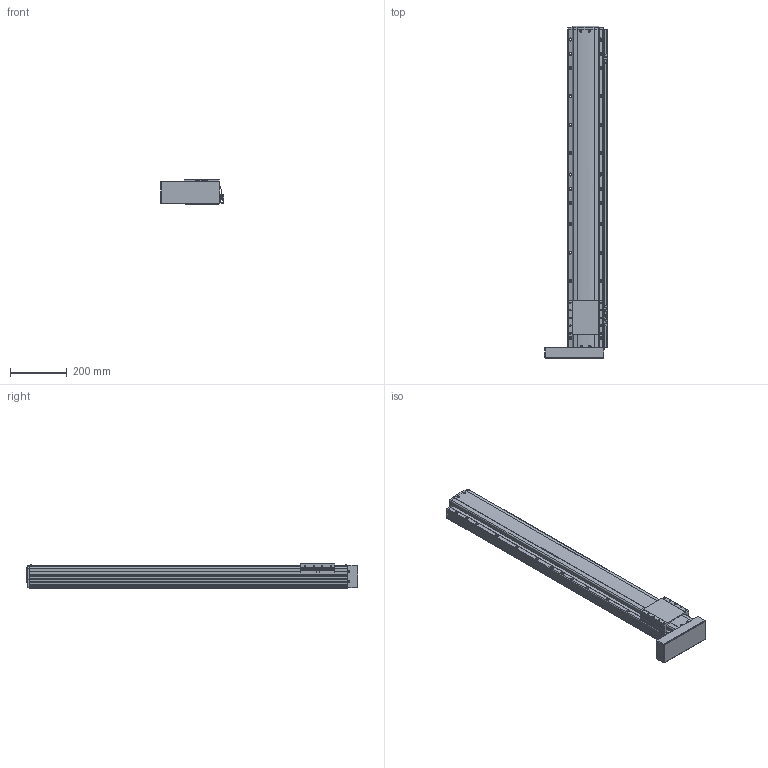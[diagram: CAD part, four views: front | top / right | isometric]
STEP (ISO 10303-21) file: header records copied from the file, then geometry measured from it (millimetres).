
FILE_DESCRIPTION(('STEP AP214'),'1');
FILE_NAME('Z:/Web/3D/PSA125/STP/PSA125-900 (3D)/PSA125ㅁㅁ-900PL+3SR.stp','2014-06-23T04:56:51',(' '),(' '),'Spatial InterOp 3D',' ',' ');
FILE_SCHEMA(('automotive_design'));
Length unit declared in the file: millimetre
Products named in the file (41): 스크루 : Round - M4.0 x 10.0; RRCV-PA120; SLIDE; BASE; FRCV-PA120-1(기준 뿔 제거); RR1500; 스크루 : Round - M4.0 x 6.0; 너트 : Square - M10.0 x 220.7419; BTCV - 60A; 스크루 : Round - M3.0 x 6.0; EE-SX674; SBK-SX674-352; M3.0 x 6.0; SRL-16x17-380L; SGD-PA95; 스크루 : Round - M3.0 x 8.0
Bounding box: 225.06 x 1168.6 x 86 mm (x, y, z)
Volume: 10159893 mm3; surface area: 928784.1 mm2
Topology: 41 solids, 41 shells, 2547 faces, 6793 edges, 4346 vertices
Faces by surface type: plane 1419, cylinder 748, cone 260, sphere 64, bspline 31, torus 25
Entity records: 101740 total; most frequent: CARTESIAN_POINT 16507, DIRECTION 13585, ORIENTED_EDGE 13278, EDGE_CURVE 6639, AXIS2_PLACEMENT_3D 4581, LINE 4423, VECTOR 4423, VERTEX_POINT 4346
